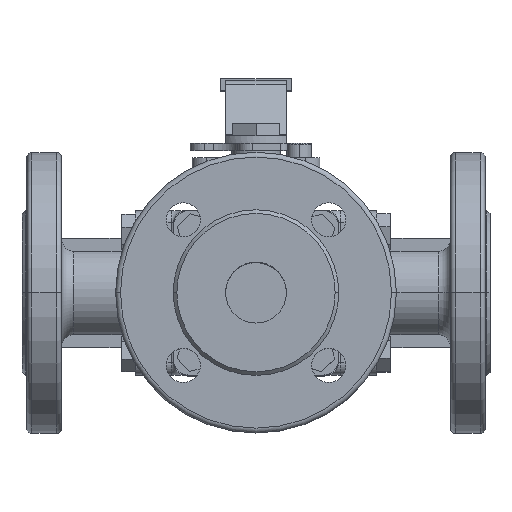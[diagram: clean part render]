
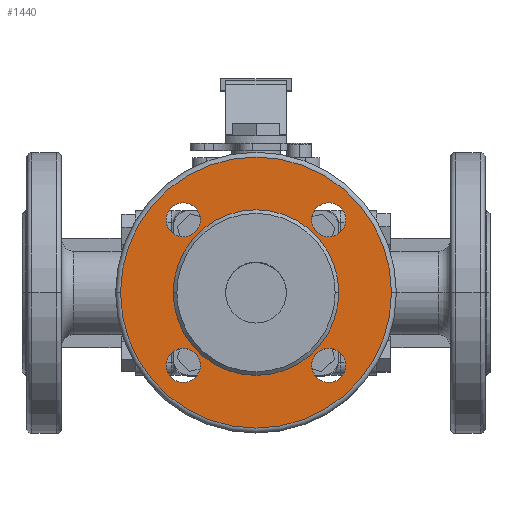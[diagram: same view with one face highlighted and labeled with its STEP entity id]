
A CAD part, top view. The second image highlights one B-rep face of the part: STEP entity #1440.
In plain terms, the highlighted planar face has unit normal (0, 0, 1) as drawn and (1, 0, 0) by its records, which use the part's own axes.
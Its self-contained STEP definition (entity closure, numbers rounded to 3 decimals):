
#976 = EDGE_CURVE ( 'NONE', #9742, #9703, #12014, .T. ) ;
#989 = EDGE_CURVE ( 'NONE', #9796, #9797, #12048, .T. ) ;
#993 = EDGE_CURVE ( 'NONE', #9800, #9801, #12054, .T. ) ;
#997 = EDGE_CURVE ( 'NONE', #9804, #9805, #12060, .T. ) ;
#1001 = EDGE_CURVE ( 'NONE', #9808, #9809, #12066, .T. ) ;
#1011 = EDGE_CURVE ( 'NONE', #9814, #9815, #12080, .T. ) ;
#1440 = ADVANCED_FACE ( 'NONE', ( #7259, #7261, #7263, #7265, #7258, #7260 ), #7262, .F. ) ;
#1999 = ORIENTED_EDGE ( 'NONE', *, *, #2561, .T. ) ;
#2000 = ORIENTED_EDGE ( 'NONE', *, *, #976, .T. ) ;
#2001 = ORIENTED_EDGE ( 'NONE', *, *, #2562, .F. ) ;
#2002 = ORIENTED_EDGE ( 'NONE', *, *, #989, .F. ) ;
#2003 = ORIENTED_EDGE ( 'NONE', *, *, #2563, .F. ) ;
#2004 = ORIENTED_EDGE ( 'NONE', *, *, #993, .F. ) ;
#2005 = ORIENTED_EDGE ( 'NONE', *, *, #2564, .F. ) ;
#2006 = ORIENTED_EDGE ( 'NONE', *, *, #997, .F. ) ;
#2007 = ORIENTED_EDGE ( 'NONE', *, *, #2565, .F. ) ;
#2008 = ORIENTED_EDGE ( 'NONE', *, *, #1001, .F. ) ;
#2009 = ORIENTED_EDGE ( 'NONE', *, *, #1011, .F. ) ;
#2010 = ORIENTED_EDGE ( 'NONE', *, *, #2566, .F. ) ;
#2561 = EDGE_CURVE ( 'NONE', #9703, #9742, #12383, .T. ) ;
#2562 = EDGE_CURVE ( 'NONE', #9797, #9796, #12385, .T. ) ;
#2563 = EDGE_CURVE ( 'NONE', #9801, #9800, #12387, .T. ) ;
#2564 = EDGE_CURVE ( 'NONE', #9805, #9804, #12389, .T. ) ;
#2565 = EDGE_CURVE ( 'NONE', #9809, #9808, #12391, .T. ) ;
#2566 = EDGE_CURVE ( 'NONE', #9815, #9814, #12393, .T. ) ;
#4136 = CARTESIAN_POINT ( 'NONE',  ( 53.3, 0., 55.625 ) ) ;
#4222 = CARTESIAN_POINT ( 'NONE',  ( 53.3, 0., -55.625 ) ) ;
#4276 = CARTESIAN_POINT ( 'NONE',  ( 53.3, 29.875, 36.875 ) ) ;
#4277 = CARTESIAN_POINT ( 'NONE',  ( 53.3, 29.875, 22.875 ) ) ;
#4280 = CARTESIAN_POINT ( 'NONE',  ( 53.3, -29.875, 36.875 ) ) ;
#4281 = CARTESIAN_POINT ( 'NONE',  ( 53.3, -29.875, 22.875 ) ) ;
#4284 = CARTESIAN_POINT ( 'NONE',  ( 53.3, -29.875, -22.875 ) ) ;
#4285 = CARTESIAN_POINT ( 'NONE',  ( 53.3, -29.875, -36.875 ) ) ;
#4288 = CARTESIAN_POINT ( 'NONE',  ( 53.3, 29.875, -22.875 ) ) ;
#4289 = CARTESIAN_POINT ( 'NONE',  ( 53.3, 29.875, -36.875 ) ) ;
#4294 = CARTESIAN_POINT ( 'NONE',  ( 53.3, 0., -34. ) ) ;
#4295 = CARTESIAN_POINT ( 'NONE',  ( 53.3, 0., 34. ) ) ;
#7258 = FACE_BOUND ( 'NONE', #14300, .T. ) ;
#7259 = FACE_OUTER_BOUND ( 'NONE', #14303, .T. ) ;
#7260 = FACE_BOUND ( 'NONE', #14298, .T. ) ;
#7261 = FACE_BOUND ( 'NONE', #14296, .T. ) ;
#7262 = PLANE ( 'NONE',  #7787 ) ;
#7263 = FACE_BOUND ( 'NONE', #14297, .T. ) ;
#7265 = FACE_BOUND ( 'NONE', #14295, .T. ) ;
#7266 = CARTESIAN_POINT ( 'NONE',  ( 53.3, 0., 0. ) ) ;
#7267 = DIRECTION ( 'NONE',  ( -1., 0., 0. ) ) ;
#7268 = DIRECTION ( 'NONE',  ( 0., 0., 1. ) ) ;
#7787 = AXIS2_PLACEMENT_3D ( 'NONE', #7266, #7267, #7268 ) ;
#9703 = VERTEX_POINT ( 'NONE', #4136 ) ;
#9742 = VERTEX_POINT ( 'NONE', #4222 ) ;
#9796 = VERTEX_POINT ( 'NONE', #4276 ) ;
#9797 = VERTEX_POINT ( 'NONE', #4277 ) ;
#9800 = VERTEX_POINT ( 'NONE', #4280 ) ;
#9801 = VERTEX_POINT ( 'NONE', #4281 ) ;
#9804 = VERTEX_POINT ( 'NONE', #4284 ) ;
#9805 = VERTEX_POINT ( 'NONE', #4285 ) ;
#9808 = VERTEX_POINT ( 'NONE', #4288 ) ;
#9809 = VERTEX_POINT ( 'NONE', #4289 ) ;
#9814 = VERTEX_POINT ( 'NONE', #4294 ) ;
#9815 = VERTEX_POINT ( 'NONE', #4295 ) ;
#11774 = CARTESIAN_POINT ( 'NONE',  ( 53.3, 0., 0. ) ) ;
#11775 = DIRECTION ( 'NONE',  ( 1., 0., 0. ) ) ;
#11776 = DIRECTION ( 'NONE',  ( 0., 0., 1. ) ) ;
#11815 = CARTESIAN_POINT ( 'NONE',  ( 53.3, 29.875, 29.875 ) ) ;
#11816 = DIRECTION ( 'NONE',  ( 1., 0., 0. ) ) ;
#11817 = DIRECTION ( 'NONE',  ( 0., 0., -1. ) ) ;
#11827 = CARTESIAN_POINT ( 'NONE',  ( 53.3, -29.875, 29.875 ) ) ;
#11828 = DIRECTION ( 'NONE',  ( 1., 0., 0. ) ) ;
#11829 = DIRECTION ( 'NONE',  ( 0., 0., -1. ) ) ;
#11839 = CARTESIAN_POINT ( 'NONE',  ( 53.3, -29.875, -29.875 ) ) ;
#11840 = DIRECTION ( 'NONE',  ( 1., 0., 0. ) ) ;
#11841 = DIRECTION ( 'NONE',  ( 0., 0., -1. ) ) ;
#11851 = CARTESIAN_POINT ( 'NONE',  ( 53.3, 29.875, -29.875 ) ) ;
#11852 = DIRECTION ( 'NONE',  ( 1., 0., 0. ) ) ;
#11853 = DIRECTION ( 'NONE',  ( 0., 0., -1. ) ) ;
#11883 = CARTESIAN_POINT ( 'NONE',  ( 53.3, 0., 0. ) ) ;
#11884 = DIRECTION ( 'NONE',  ( 1., 0., 0. ) ) ;
#11885 = DIRECTION ( 'NONE',  ( 0., 0., 1. ) ) ;
#12014 = CIRCLE ( 'NONE', #12029, 55.625 ) ;
#12029 = AXIS2_PLACEMENT_3D ( 'NONE', #11774, #11775, #11776 ) ;
#12048 = CIRCLE ( 'NONE', #12052, 7. ) ;
#12052 = AXIS2_PLACEMENT_3D ( 'NONE', #11815, #11816, #11817 ) ;
#12054 = CIRCLE ( 'NONE', #12058, 7. ) ;
#12058 = AXIS2_PLACEMENT_3D ( 'NONE', #11827, #11828, #11829 ) ;
#12060 = CIRCLE ( 'NONE', #12064, 7. ) ;
#12064 = AXIS2_PLACEMENT_3D ( 'NONE', #11839, #11840, #11841 ) ;
#12066 = CIRCLE ( 'NONE', #12070, 7. ) ;
#12070 = AXIS2_PLACEMENT_3D ( 'NONE', #11851, #11852, #11853 ) ;
#12080 = CIRCLE ( 'NONE', #12085, 34. ) ;
#12085 = AXIS2_PLACEMENT_3D ( 'NONE', #11883, #11884, #11885 ) ;
#12383 = CIRCLE ( 'NONE', #12386, 55.625 ) ;
#12385 = CIRCLE ( 'NONE', #12388, 7. ) ;
#12386 = AXIS2_PLACEMENT_3D ( 'NONE', #13226, #13227, #13228 ) ;
#12387 = CIRCLE ( 'NONE', #12390, 7. ) ;
#12388 = AXIS2_PLACEMENT_3D ( 'NONE', #13229, #13230, #13231 ) ;
#12389 = CIRCLE ( 'NONE', #12392, 7. ) ;
#12390 = AXIS2_PLACEMENT_3D ( 'NONE', #13232, #13233, #13234 ) ;
#12391 = CIRCLE ( 'NONE', #12394, 7. ) ;
#12392 = AXIS2_PLACEMENT_3D ( 'NONE', #13235, #13236, #13237 ) ;
#12393 = CIRCLE ( 'NONE', #12396, 34. ) ;
#12394 = AXIS2_PLACEMENT_3D ( 'NONE', #13238, #13239, #13240 ) ;
#12396 = AXIS2_PLACEMENT_3D ( 'NONE', #13241, #13242, #13243 ) ;
#13226 = CARTESIAN_POINT ( 'NONE',  ( 53.3, 0., 0. ) ) ;
#13227 = DIRECTION ( 'NONE',  ( 1., 0., 0. ) ) ;
#13228 = DIRECTION ( 'NONE',  ( 0., 0., 1. ) ) ;
#13229 = CARTESIAN_POINT ( 'NONE',  ( 53.3, 29.875, 29.875 ) ) ;
#13230 = DIRECTION ( 'NONE',  ( 1., 0., 0. ) ) ;
#13231 = DIRECTION ( 'NONE',  ( 0., 0., -1. ) ) ;
#13232 = CARTESIAN_POINT ( 'NONE',  ( 53.3, -29.875, 29.875 ) ) ;
#13233 = DIRECTION ( 'NONE',  ( 1., 0., 0. ) ) ;
#13234 = DIRECTION ( 'NONE',  ( 0., 0., -1. ) ) ;
#13235 = CARTESIAN_POINT ( 'NONE',  ( 53.3, -29.875, -29.875 ) ) ;
#13236 = DIRECTION ( 'NONE',  ( 1., 0., 0. ) ) ;
#13237 = DIRECTION ( 'NONE',  ( 0., 0., -1. ) ) ;
#13238 = CARTESIAN_POINT ( 'NONE',  ( 53.3, 29.875, -29.875 ) ) ;
#13239 = DIRECTION ( 'NONE',  ( 1., 0., 0. ) ) ;
#13240 = DIRECTION ( 'NONE',  ( 0., 0., -1. ) ) ;
#13241 = CARTESIAN_POINT ( 'NONE',  ( 53.3, 0., 0. ) ) ;
#13242 = DIRECTION ( 'NONE',  ( 1., 0., 0. ) ) ;
#13243 = DIRECTION ( 'NONE',  ( 0., 0., 1. ) ) ;
#14295 = EDGE_LOOP ( 'NONE', ( #2005, #2006 ) ) ;
#14296 = EDGE_LOOP ( 'NONE', ( #2001, #2002 ) ) ;
#14297 = EDGE_LOOP ( 'NONE', ( #2003, #2004 ) ) ;
#14298 = EDGE_LOOP ( 'NONE', ( #2009, #2010 ) ) ;
#14300 = EDGE_LOOP ( 'NONE', ( #2007, #2008 ) ) ;
#14303 = EDGE_LOOP ( 'NONE', ( #1999, #2000 ) ) ;
